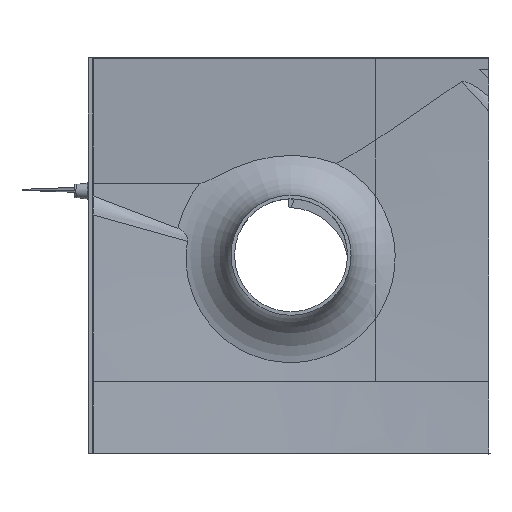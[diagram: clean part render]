
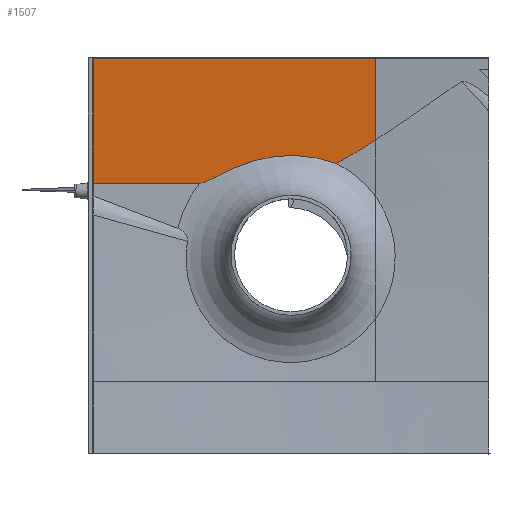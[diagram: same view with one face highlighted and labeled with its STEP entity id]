
A CAD part, top view. The second image highlights one B-rep face of the part: STEP entity #1507.
In plain terms, the highlighted planar face has unit normal (0, -0.089, 0.996).
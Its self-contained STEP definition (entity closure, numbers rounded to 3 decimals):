
#52=B_SPLINE_CURVE_WITH_KNOTS('',3,(#2501,#2502,#2503,#2504,#2505,#2506,
#2507,#2508,#2509,#2510,#2511,#2512,#2513,#2514,#2515,#2516,#2517,#2518,
#2519,#2520,#2521,#2522,#2523,#2524,#2525,#2526),.UNSPECIFIED.,.F.,.F.,
(4,2,2,2,2,2,2,2,2,2,2,2,4),(12.357,12.863,14.16,
15.456,16.753,18.049,19.346,19.994,
20.642,21.299,21.627,21.791,21.955),
 .UNSPECIFIED.);
#130=PLANE('',#1624);
#204=LINE('',#2382,#301);
#211=LINE('',#2545,#308);
#212=LINE('',#2547,#309);
#213=LINE('',#2548,#310);
#301=VECTOR('',#1840,10.);
#308=VECTOR('',#1867,10.);
#309=VECTOR('',#1868,10.);
#310=VECTOR('',#1869,10.);
#396=FACE_OUTER_BOUND('',#483,.T.);
#483=EDGE_LOOP('',(#1211,#1212,#1213,#1214,#1215,#1216));
#605=(
BOUNDED_CURVE()
B_SPLINE_CURVE(2,(#2549,#2550,#2551),.UNSPECIFIED.,.F.,.F.)
B_SPLINE_CURVE_WITH_KNOTS((3,3),(4.01,7.684),
 .UNSPECIFIED.)
CURVE()
GEOMETRIC_REPRESENTATION_ITEM()
RATIONAL_B_SPLINE_CURVE((1.763,2.065,2.278))
REPRESENTATION_ITEM('')
);
#675=VERTEX_POINT('',#2379);
#676=VERTEX_POINT('',#2381);
#688=VERTEX_POINT('',#2493);
#689=VERTEX_POINT('',#2500);
#691=VERTEX_POINT('',#2544);
#692=VERTEX_POINT('',#2546);
#858=EDGE_CURVE('',#676,#675,#204,.T.);
#877=EDGE_CURVE('',#688,#689,#52,.T.);
#880=EDGE_CURVE('',#691,#675,#211,.T.);
#881=EDGE_CURVE('',#691,#692,#212,.T.);
#882=EDGE_CURVE('',#689,#692,#213,.T.);
#883=EDGE_CURVE('',#676,#688,#605,.T.);
#1211=ORIENTED_EDGE('',*,*,#858,.T.);
#1212=ORIENTED_EDGE('',*,*,#880,.F.);
#1213=ORIENTED_EDGE('',*,*,#881,.T.);
#1214=ORIENTED_EDGE('',*,*,#882,.F.);
#1215=ORIENTED_EDGE('',*,*,#877,.F.);
#1216=ORIENTED_EDGE('',*,*,#883,.F.);
#1507=ADVANCED_FACE('',(#396),#130,.T.);
#1624=AXIS2_PLACEMENT_3D('',#2543,#1865,#1866);
#1840=DIRECTION('',(0.,0.996,0.089));
#1865=DIRECTION('center_axis',(0.,-0.089,0.996));
#1866=DIRECTION('ref_axis',(0.,-0.996,-0.089));
#1867=DIRECTION('',(1.,0.,0.));
#1868=DIRECTION('',(0.,-0.996,-0.089));
#1869=DIRECTION('',(-1.,0.,0.));
#2379=CARTESIAN_POINT('',(61.508,147.723,10.902));
#2381=CARTESIAN_POINT('',(61.508,89.971,5.741));
#2382=CARTESIAN_POINT('',(61.508,92.109,5.932));
#2493=CARTESIAN_POINT('',(33.688,73.306,4.251));
#2500=CARTESIAN_POINT('',(-63.305,59.302,3.));
#2501=CARTESIAN_POINT('Ctrl Pts',(33.688,73.306,4.251));
#2502=CARTESIAN_POINT('Ctrl Pts',(31.962,73.921,4.306));
#2503=CARTESIAN_POINT('Ctrl Pts',(30.218,74.493,4.357));
#2504=CARTESIAN_POINT('Ctrl Pts',(23.972,76.355,4.524));
#2505=CARTESIAN_POINT('Ctrl Pts',(19.397,77.374,4.615));
#2506=CARTESIAN_POINT('Ctrl Pts',(10.326,78.705,4.734));
#2507=CARTESIAN_POINT('Ctrl Pts',(5.829,79.017,4.762));
#2508=CARTESIAN_POINT('Ctrl Pts',(-2.814,79.017,4.762));
#2509=CARTESIAN_POINT('Ctrl Pts',(-7.31,78.705,4.734));
#2510=CARTESIAN_POINT('Ctrl Pts',(-16.382,77.374,4.615));
#2511=CARTESIAN_POINT('Ctrl Pts',(-20.957,76.355,4.524));
#2512=CARTESIAN_POINT('Ctrl Pts',(-29.936,73.677,4.285));
#2513=CARTESIAN_POINT('Ctrl Pts',(-34.348,72.014,4.136));
#2514=CARTESIAN_POINT('Ctrl Pts',(-40.697,69.226,3.887));
#2515=CARTESIAN_POINT('Ctrl Pts',(-42.769,68.249,3.799));
#2516=CARTESIAN_POINT('Ctrl Pts',(-46.813,66.259,3.622));
#2517=CARTESIAN_POINT('Ctrl Pts',(-48.783,65.245,3.531));
#2518=CARTESIAN_POINT('Ctrl Pts',(-52.648,63.259,3.354));
#2519=CARTESIAN_POINT('Ctrl Pts',(-54.768,62.157,3.255));
#2520=CARTESIAN_POINT('Ctrl Pts',(-57.963,60.714,3.126));
#2521=CARTESIAN_POINT('Ctrl Pts',(-59.027,60.27,3.086));
#2522=CARTESIAN_POINT('Ctrl Pts',(-60.623,59.748,3.04));
#2523=CARTESIAN_POINT('Ctrl Pts',(-61.154,59.598,3.026));
#2524=CARTESIAN_POINT('Ctrl Pts',(-62.222,59.376,3.007));
#2525=CARTESIAN_POINT('Ctrl Pts',(-62.758,59.302,3.));
#2526=CARTESIAN_POINT('Ctrl Pts',(-63.305,59.302,3.));
#2543=CARTESIAN_POINT('Origin',(-138.492,147.723,10.902));
#2544=CARTESIAN_POINT('',(-138.492,147.723,10.902));
#2545=CARTESIAN_POINT('',(-138.492,147.723,10.902));
#2546=CARTESIAN_POINT('',(-138.492,59.302,3.));
#2547=CARTESIAN_POINT('',(-138.492,147.723,10.902));
#2548=CARTESIAN_POINT('',(-68.492,59.302,3.));
#2549=CARTESIAN_POINT('Ctrl Pts',(61.508,89.971,5.741));
#2550=CARTESIAN_POINT('Ctrl Pts',(44.847,79.203,4.778));
#2551=CARTESIAN_POINT('Ctrl Pts',(33.688,73.306,4.251));
